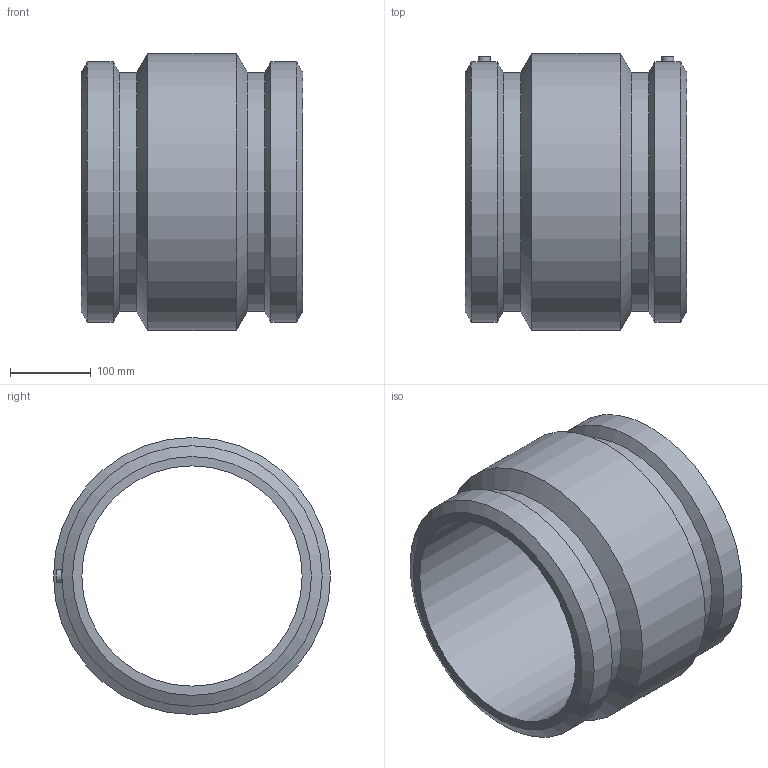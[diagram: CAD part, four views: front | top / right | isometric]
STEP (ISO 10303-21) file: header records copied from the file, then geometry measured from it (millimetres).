
FILE_DESCRIPTION(/* description */ ('PLASSON COUPLER 10''''DIPS'),/* implementation_level */ '2;1');
FILE_NAME(/* name */ 'C:\Dropbox\KIMPROJECTS-Inventor 2019\99-16-3568-Processing Inch\ASTM ElectroFusion 2021\5901D\5901D004100.ipt.stp',/* time_stamp */ '2021-08-30T09:49:08+03:00',/* author */ ('KIM'),/* organization */ (''),/* preprocessor_version */ 'ST-DEVELOPER v17.2',/* originating_system */ 'Autodesk Inventor 2019',/* authorisation */ '');
FILE_SCHEMA (('AUTOMOTIVE_DESIGN { 1 0 10303 214 3 1 1 }'));
Length unit declared in the file: inch
Products named in the file (1): 5901D004100
Bounding box: 274.32 x 342.9 x 342.9 mm (x, y, z)
Volume: 6741856.6 mm3; surface area: 594475.8 mm2
Topology: 1 solids, 1 shells, 28 faces, 66 edges, 46 vertices
Faces by surface type: cylinder 12, plane 8, cone 6, bspline 2
Full cylindrical faces by diameter (mm): 4 x2, 10 x2, 15 x2, 272.7 x1, 295.493 x2, 322.356 x2, 342.9 x1
Entity records: 1250 total; most frequent: CARTESIAN_POINT 536, DIRECTION 146, ORIENTED_EDGE 132, EDGE_CURVE 66, AXIS2_PLACEMENT_3D 63, VERTEX_POINT 46, CIRCLE 36, EDGE_LOOP 36
